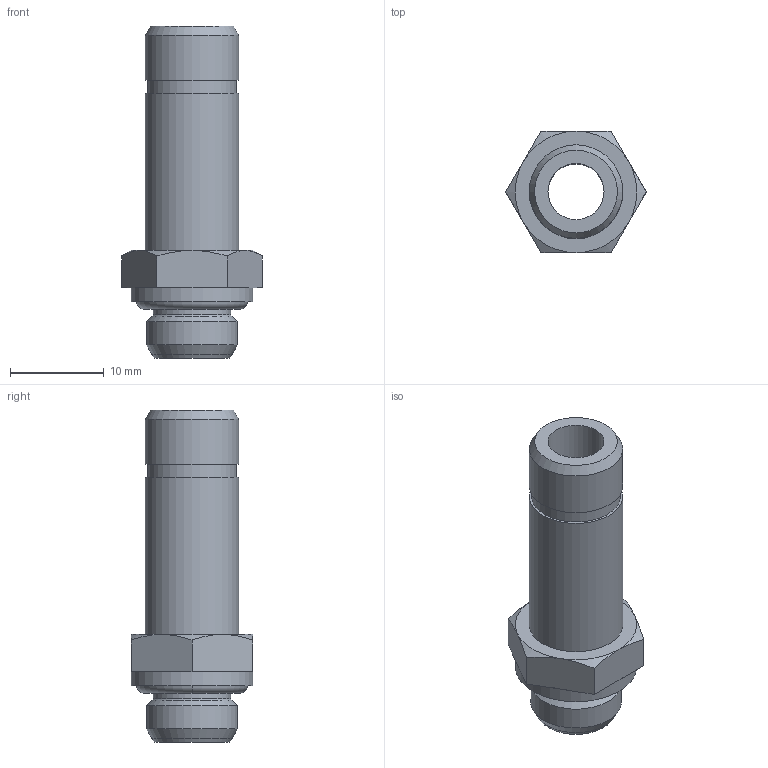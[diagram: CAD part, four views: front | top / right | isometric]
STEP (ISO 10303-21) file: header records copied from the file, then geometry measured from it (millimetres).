
FILE_DESCRIPTION(('Bauteilbeschreibung','HiCAD-Model','HiCAD-STEP-TRANSLATION','Bauteilbeschreibung'),'2;1');
FILE_NAME('B:/ABGLEICH/ZEICHNUNGEN/STEP FÜR INTERNET/STEP/IPSO 06/200618_IPSO_06_10_1-8.STP','2012-03-01T14:26:44+00:00',('Konstrukteur'),('Konstrukteur Firma GmbH'),' HiCAD neXt 2008, Step 3.1.1401.2J ','HiCAD neXt 2008','confidential');
FILE_SCHEMA(('AUTOMOTIVE_DESIGN { 1 2 10303 214 0 1 1 1 }'));
Length unit declared in the file: millimetre
Products named in the file (5): A00618_IPSO_06_10_1_8; A00618; A006180; G 1_8; OR 7_2X1_9
Assembly tree (4 placements, depth 3):
  A00618_IPSO_06_10_1_8
    A00618
    A006180
      G 1_8
    OR 7_2X1_9
Bounding box: 15.01 x 13 x 35.5 mm (x, y, z)
Volume: 2064.1 mm3; surface area: 2510 mm2
Topology: 3 solids, 3 shells, 47 faces, 99 edges, 59 vertices
Faces by surface type: plane 19, cone 13, cylinder 9, torus 6
Full cylindrical faces by diameter (mm): 6 x1, 8.3 x1, 8.566 x2, 9.5 x1, 9.728 x1, 10 x2, 13 x1
Entity records: 1554 total; most frequent: DIRECTION 216, CARTESIAN_POINT 205, ORIENTED_EDGE 148, AXIS2_PLACEMENT_3D 99, EDGE_CURVE 74, EDGE_LOOP 72, COLOUR_RGB 69, PRESENTATION_STYLE_ASSIGNMENT 69
